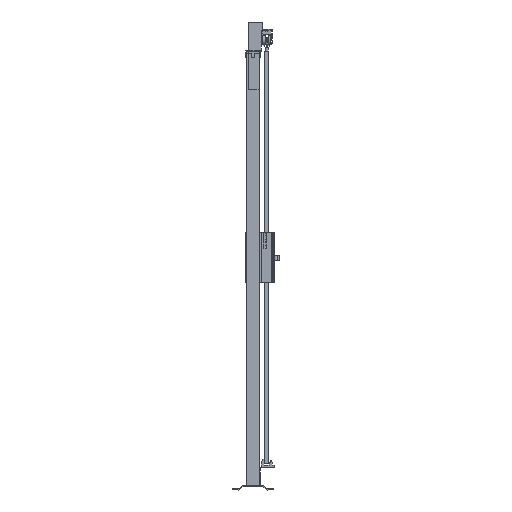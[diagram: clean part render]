
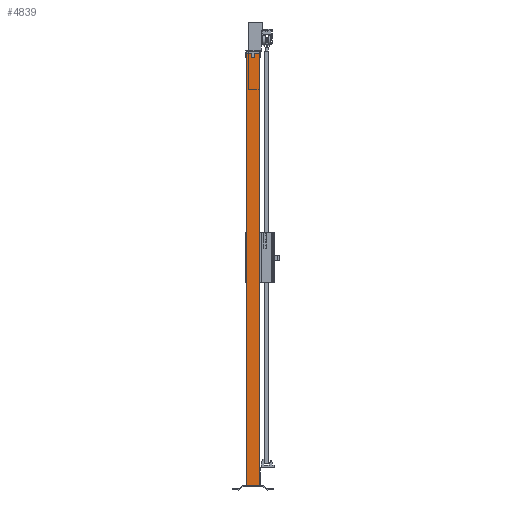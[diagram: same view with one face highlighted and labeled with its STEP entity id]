
A CAD part, left-side view. The second image highlights one B-rep face of the part: STEP entity #4839.
In plain terms, the highlighted planar face has unit normal (-1, 0, 0).
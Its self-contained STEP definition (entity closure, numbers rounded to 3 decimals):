
#490=FACE_OUTER_BOUND('',#837,.T.);
#837=EDGE_LOOP('',(#3107,#3108,#3109,#3110));
#1241=VERTEX_POINT('',#10178);
#1242=VERTEX_POINT('',#10180);
#1245=VERTEX_POINT('',#10187);
#1246=VERTEX_POINT('',#10189);
#1967=EDGE_CURVE('',#1241,#1242,#5637,.T.);
#1971=EDGE_CURVE('',#1245,#1246,#5641,.T.);
#1973=EDGE_CURVE('',#1242,#1245,#5643,.T.);
#1975=EDGE_CURVE('',#1241,#1246,#5645,.T.);
#3107=ORIENTED_EDGE('',*,*,#1975,.T.);
#3108=ORIENTED_EDGE('',*,*,#1971,.F.);
#3109=ORIENTED_EDGE('',*,*,#1973,.F.);
#3110=ORIENTED_EDGE('',*,*,#1967,.F.);
#4529=PLANE('',#7228);
#4839=ADVANCED_FACE('',(#490),#4529,.F.);
#5637=LINE('',#10181,#6508);
#5641=LINE('',#10190,#6512);
#5643=LINE('',#10193,#6514);
#5645=LINE('',#10196,#6516);
#6508=VECTOR('',#8089,1.);
#6512=VECTOR('',#8095,1.);
#6514=VECTOR('',#8099,1.);
#6516=VECTOR('',#8103,1.);
#7228=AXIS2_PLACEMENT_3D('',#10195,#8101,#8102);
#8089=DIRECTION('',(0.,-1.,0.));
#8095=DIRECTION('',(0.,1.,0.));
#8099=DIRECTION('',(0.,0.,-1.));
#8101=DIRECTION('center_axis',(1.,0.,0.));
#8102=DIRECTION('ref_axis',(0.,0.,-1.));
#8103=DIRECTION('',(0.,0.,-1.));
#10178=CARTESIAN_POINT('',(-30.,30.,2020.));
#10180=CARTESIAN_POINT('',(-30.,-30.,2020.));
#10181=CARTESIAN_POINT('',(-30.,0.,2020.));
#10187=CARTESIAN_POINT('',(-30.,-30.,20.));
#10189=CARTESIAN_POINT('',(-30.,30.,20.));
#10190=CARTESIAN_POINT('',(-30.,0.,20.));
#10193=CARTESIAN_POINT('',(-30.,-30.,1020.));
#10195=CARTESIAN_POINT('Origin',(-30.,0.,
1020.));
#10196=CARTESIAN_POINT('',(-30.,30.,1020.));
